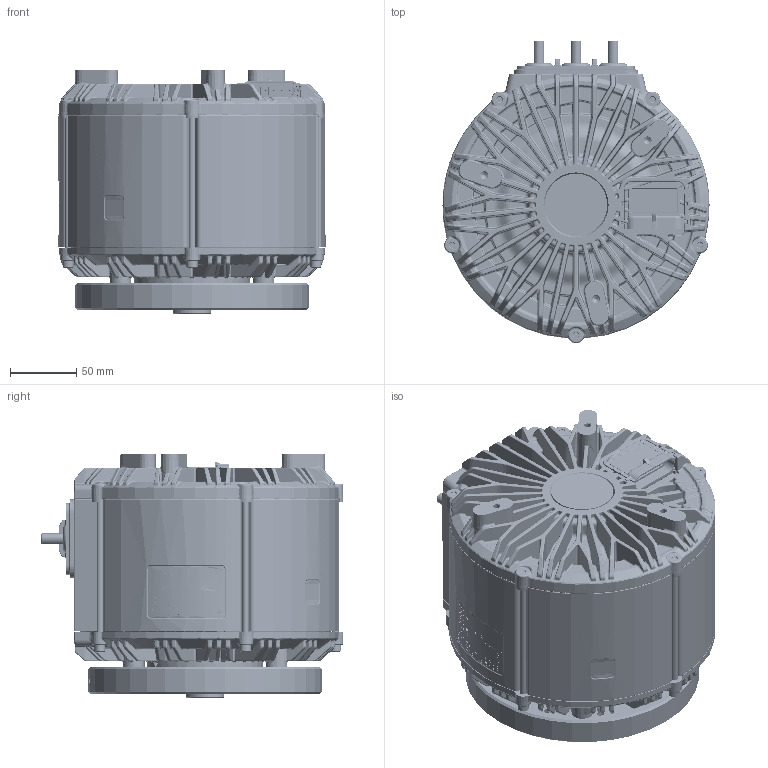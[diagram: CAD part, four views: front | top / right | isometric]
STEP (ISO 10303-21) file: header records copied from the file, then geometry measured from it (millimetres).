
FILE_DESCRIPTION (( 'STEP AP214' ), '1' );
FILE_NAME ('2019-002-077.STEP', '2024-04-23T07:23:10', ( '' ), ( '' ), 'SwSTEP 2.0', 'SolidWorks 2021', '' );
FILE_SCHEMA (( 'AUTOMOTIVE_DESIGN' ));
Length unit declared in the file: millimetre
Products named in the file (59): 1219-080-015_Defeature (ext. only); Copy of SOLID REP^1319-000-109; 9000-101-000; 1319-000-108; 9500-102-000; 1219-080-007; 1400-000-101; 1119-000-003; 1219-080-008; 1119-000-001_DE-FEATURED FOR EXTERNAL; 9000-104-000; 9200-100-001; 915A-005-008; 1319-000-101; 921A-107-000_Installed length; 2019-100-105; Copy of SOLID REP^1319-000-108; 913A-008-020; 1019-080-008_Defeatured (Ext. Only); 1119-000-002; 1219-080-014_Defeatured (Ext. Only); 940B-001-101; 1119-000-101; 910B-005-016_M5X16mm; 9700-000-001; 9500-103-000; 1319-000-103; 910B-008-020_M8X20mm; 1400-000-100; 1119-000-100; 1119-000-004; 1119-000-102; 9000-101-001; 2019-101-103; 1400-000-002; 1119-080-104; 940B-001-100; 1219-080-006; 1119-080-005_Defeatured (Ext. Only); 910B-005-120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
Assembly tree (61 placements, depth 8):
  9000-101-000
  9000-104-000
  9200-100-001
  9000-101-001
  1219-080-006
Bounding box: 201 x 227.8 x 183.14 mm (x, y, z)
Volume: 1789370.6 mm3; surface area: 651752.4 mm2
Topology: 73 solids, 74 shells, 12992 faces, 31047 edges, 18238 vertices
Faces by surface type: bspline 4774, cylinder 2749, plane 2384, torus 1552, cone 1086, sphere 447
Entity records: 540238 total; most frequent: CARTESIAN_POINT 282472, ORIENTED_EDGE 58922, DIRECTION 44943, EDGE_CURVE 29461, AXIS2_PLACEMENT_3D 19043, VERTEX_POINT 17484, EDGE_LOOP 12793, ADVANCED_FACE 12388
